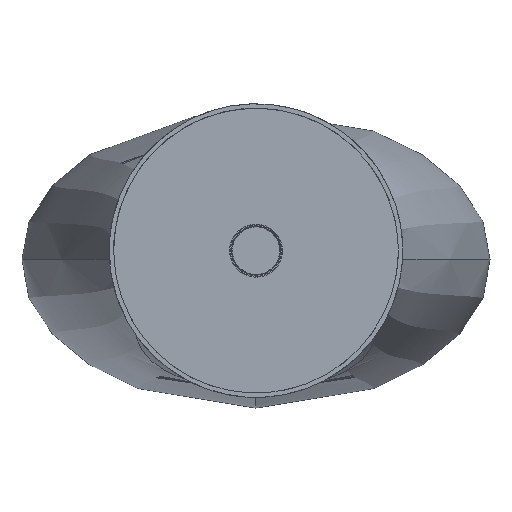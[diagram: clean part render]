
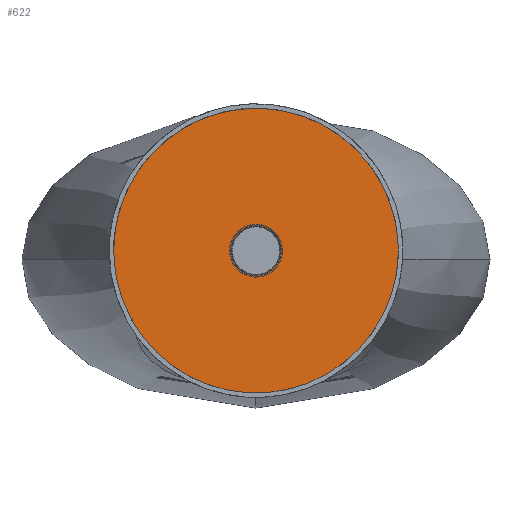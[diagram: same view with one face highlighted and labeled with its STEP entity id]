
A CAD part, top view. The second image highlights one B-rep face of the part: STEP entity #622.
In plain terms, the highlighted free-form (B-spline) face has degree [2, 1] with [9, 2] control points.
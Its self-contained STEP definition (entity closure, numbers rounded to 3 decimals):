
#622=ADVANCED_FACE('',(#1103),#7247,.T.);
#1103=FACE_OUTER_BOUND('',#1627,.T.);
#1627=EDGE_LOOP('',(#3941,#3942,#3943,#3944));
#3941=ORIENTED_EDGE('',*,*,#5173,.F.);
#3942=ORIENTED_EDGE('',*,*,#5178,.T.);
#3943=ORIENTED_EDGE('',*,*,#5173,.T.);
#3944=ORIENTED_EDGE('',*,*,#5179,.F.);
#5173=EDGE_CURVE('',#7157,#7156,#6051,.T.);
#5178=EDGE_CURVE('',#7157,#7157,#6382,.T.);
#5179=EDGE_CURVE('',#7156,#7156,#6383,.T.);
#6051=B_SPLINE_CURVE_WITH_KNOTS('',1,(#49457,#49458),.UNSPECIFIED.,.F.,
 .F.,(2,2),(89.9,130.3),.UNSPECIFIED.);
#6382=(
BOUNDED_CURVE()
B_SPLINE_CURVE(2,(#49481,#49482,#49483,#49484,#49485,#49486,#49487,#49488,
#49489),.UNSPECIFIED.,.T.,.F.)
B_SPLINE_CURVE_WITH_KNOTS((3,2,2,2,3),(0.,78.54,157.08,
235.619,314.159),.UNSPECIFIED.)
CURVE()
GEOMETRIC_REPRESENTATION_ITEM()
RATIONAL_B_SPLINE_CURVE((1.,0.707,1.,0.707,1.,0.707,
1.,0.707,1.))
REPRESENTATION_ITEM('')
);
#6383=(
BOUNDED_CURVE()
B_SPLINE_CURVE(2,(#49490,#49491,#49492,#49493,#49494,#49495,#49496,#49497,
#49498),.UNSPECIFIED.,.T.,.F.)
B_SPLINE_CURVE_WITH_KNOTS((3,2,2,2,3),(0.,78.54,157.08,
235.619,314.159),.UNSPECIFIED.)
CURVE()
GEOMETRIC_REPRESENTATION_ITEM()
RATIONAL_B_SPLINE_CURVE((1.,0.707,1.,0.707,1.,0.707,
1.,0.707,1.))
REPRESENTATION_ITEM('')
);
#7156=VERTEX_POINT('',#49438);
#7157=VERTEX_POINT('',#49439);
#7247=(
BOUNDED_SURFACE()
B_SPLINE_SURFACE(2,1,((#49391,#49392),(#49393,#49394),(#49395,#49396),(#49397,
#49398),(#49399,#49400),(#49401,#49402),(#49403,#49404),(#49405,#49406),
(#49407,#49408)),.UNSPECIFIED.,.T.,.F.,.F.)
B_SPLINE_SURFACE_WITH_KNOTS((3,2,2,2,3),(2,2),(0.,78.54,157.08,
235.619,314.159),(89.9,130.3),
 .UNSPECIFIED.)
GEOMETRIC_REPRESENTATION_ITEM()
RATIONAL_B_SPLINE_SURFACE(((1.,1.),(0.707,0.707),
(1.,1.),(0.707,0.707),(1.,1.),(0.707,
0.707),(1.,1.),(0.707,0.707),(1.,1.)))
REPRESENTATION_ITEM('')
SURFACE()
);
#49391=CARTESIAN_POINT('',(-48.5,0.,-22.5));
#49392=CARTESIAN_POINT('',(-8.1,0.,-22.5));
#49393=CARTESIAN_POINT('',(-48.5,-48.5,-22.5));
#49394=CARTESIAN_POINT('',(-8.1,-8.1,-22.5));
#49395=CARTESIAN_POINT('',(0.,-48.5,-22.5));
#49396=CARTESIAN_POINT('',(0.,-8.1,-22.5));
#49397=CARTESIAN_POINT('',(48.5,-48.5,-22.5));
#49398=CARTESIAN_POINT('',(8.1,-8.1,-22.5));
#49399=CARTESIAN_POINT('',(48.5,0.,-22.5));
#49400=CARTESIAN_POINT('',(8.1,0.,-22.5));
#49401=CARTESIAN_POINT('',(48.5,48.5,-22.5));
#49402=CARTESIAN_POINT('',(8.1,8.1,-22.5));
#49403=CARTESIAN_POINT('',(0.,48.5,-22.5));
#49404=CARTESIAN_POINT('',(0.,8.1,-22.5));
#49405=CARTESIAN_POINT('',(-48.5,48.5,-22.5));
#49406=CARTESIAN_POINT('',(-8.1,8.1,-22.5));
#49407=CARTESIAN_POINT('',(-48.5,0.,-22.5));
#49408=CARTESIAN_POINT('',(-8.1,0.,-22.5));
#49438=CARTESIAN_POINT('',(-8.1,0.,-22.5));
#49439=CARTESIAN_POINT('',(-48.5,0.,-22.5));
#49457=CARTESIAN_POINT('',(-48.5,0.,-22.5));
#49458=CARTESIAN_POINT('',(-8.1,0.,-22.5));
#49481=CARTESIAN_POINT('',(-48.5,0.,-22.5));
#49482=CARTESIAN_POINT('',(-48.5,-48.5,-22.5));
#49483=CARTESIAN_POINT('',(0.,-48.5,-22.5));
#49484=CARTESIAN_POINT('',(48.5,-48.5,-22.5));
#49485=CARTESIAN_POINT('',(48.5,0.,-22.5));
#49486=CARTESIAN_POINT('',(48.5,48.5,-22.5));
#49487=CARTESIAN_POINT('',(0.,48.5,-22.5));
#49488=CARTESIAN_POINT('',(-48.5,48.5,-22.5));
#49489=CARTESIAN_POINT('',(-48.5,0.,-22.5));
#49490=CARTESIAN_POINT('',(-8.1,0.,-22.5));
#49491=CARTESIAN_POINT('',(-8.1,-8.1,-22.5));
#49492=CARTESIAN_POINT('',(0.,-8.1,-22.5));
#49493=CARTESIAN_POINT('',(8.1,-8.1,-22.5));
#49494=CARTESIAN_POINT('',(8.1,0.,-22.5));
#49495=CARTESIAN_POINT('',(8.1,8.1,-22.5));
#49496=CARTESIAN_POINT('',(0.,8.1,-22.5));
#49497=CARTESIAN_POINT('',(-8.1,8.1,-22.5));
#49498=CARTESIAN_POINT('',(-8.1,0.,-22.5));
